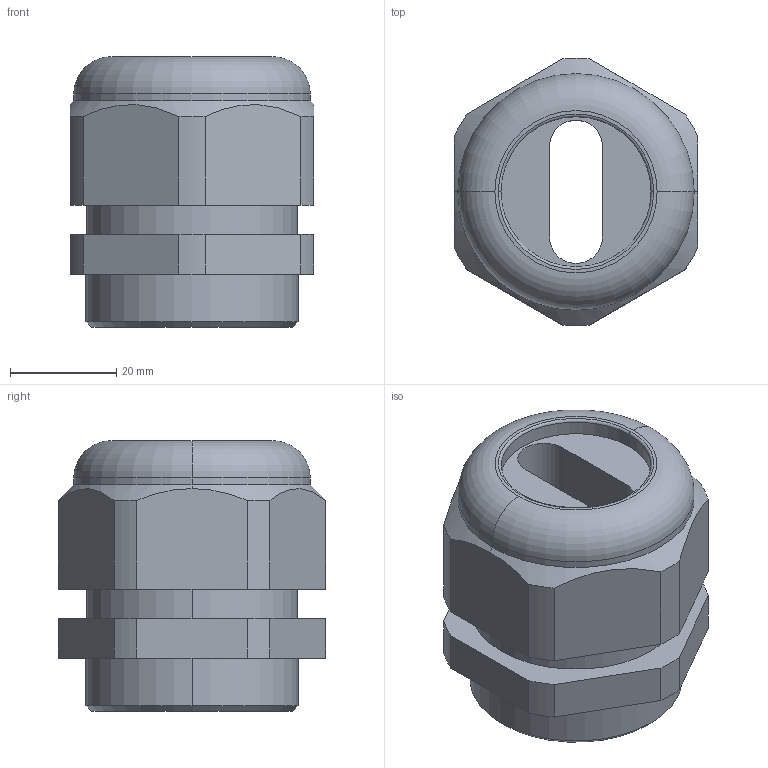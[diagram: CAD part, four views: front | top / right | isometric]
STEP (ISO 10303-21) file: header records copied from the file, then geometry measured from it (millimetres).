
FILE_DESCRIPTION (( 'STEP AP203' ), '1' );
FILE_NAME ('50.640 PA7001FK1.STEP', '2005-10-17T06:45:49', ( ' ' ), ( '' ), 'SwSTEP 2.0', 'SolidWorks 2005143', '' );
FILE_SCHEMA (( 'CONFIG_CONTROL_DESIGN' ));
Length unit declared in the file: millimetre
Products named in the file (1): 50.640 PA7001FK1
Bounding box: 46 x 50.47 x 51 mm (x, y, z)
Volume: 52570.4 mm3; surface area: 15104.5 mm2
Topology: 1 solids, 1 shells, 92 faces, 236 edges, 154 vertices
Faces by surface type: plane 58, cylinder 24, torus 6, cone 4
Entity records: 2947 total; most frequent: CARTESIAN_POINT 583, DIRECTION 476, ORIENTED_EDGE 472, EDGE_CURVE 236, VECTOR 166, LINE 166, AXIS2_PLACEMENT_3D 155, VERTEX_POINT 154
